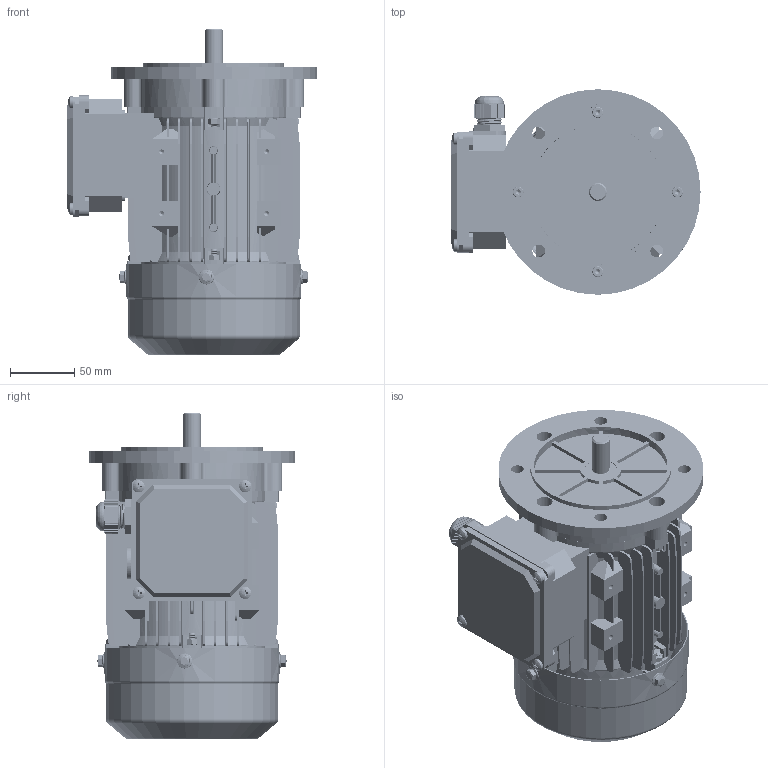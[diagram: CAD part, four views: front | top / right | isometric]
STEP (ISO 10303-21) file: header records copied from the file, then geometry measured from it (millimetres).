
FILE_DESCRIPTION (( 'STEP AP203' ), '1' );
FILE_NAME ('MS71L B5 3D蚾饜芞.STEP', '2024-06-01T08:46:48', ( 'User' ), ( 'China' ), 'SwSTEP 2.0', 'SolidWorks 2018', '' );
FILE_SCHEMA (( 'CONFIG_CONTROL_DESIGN' ));
Length unit declared in the file: millimetre
Products named in the file (17): hex nuts, style 1-grades ab gb_GB_FASTENER_NUT_SNAB1 M5-S; 8.200.07101MS71 L蛌粣; 8.306.07101MS71邧脯瑞欶; cross recessed pan head screws gb_GB_CROSS_SCREWS_TYPE1 M5X8-8  H type-C; hex flange bolts-heavy grade b gb_GB_FASTENER_BOLT_HFBB M5X10-C; 蹟杶郋M20X1.5; MS63-71諉盄碟裔; 蹟簸M20X1.5; MS63-71諉盄碟菁釱; 黑芛20X1.5; 8.014.07102MS71B5傷裔; 蚐猾25X14X4; MS71L  B5  3D蚾饜芞; hexagon socket head cap screws gb_GB_FASTENER_SCREWS_HSHCS M5X25-S; 8.034.07101MS71 L儂褲; spring lock washers--normal type gb_GB_FASTENER_WASHER_SW 5; 8.013.07102MS71綴傷裔
Assembly tree (42 placements, depth 2):
  MS71L  B5  3D蚾饜芞
    8.034.07101MS71 L儂褲
    8.013.07102MS71綴傷裔
    8.200.07101MS71 L蛌粣
    cross recessed pan head screws gb_GB_CROSS_SCREWS_TYPE1 M5X8-8  H type-C  x8
    蹟杶郋M20X1.5
    蹟簸M20X1.5
    黑芛20X1.5
    蚐猾25X14X4
    hexagon socket head cap screws gb_GB_FASTENER_SCREWS_HSHCS M5X25-S  x8
    spring lock washers--normal type gb_GB_FASTENER_WASHER_SW 5  x4
    hex nuts, style 1-grades ab gb_GB_FASTENER_NUT_SNAB1 M5-S  x7
    8.306.07101MS71邧脯瑞欶
    hex flange bolts-heavy grade b gb_GB_FASTENER_BOLT_HFBB M5X10-C  x4
    MS63-71諉盄碟裔
    MS63-71諉盄碟菁釱
    8.014.07102MS71B5傷裔
Bounding box: 194 x 160 x 253.83 mm (x, y, z)
Volume: 700297.8 mm3; surface area: 499428.6 mm2
Topology: 42 solids, 49 shells, 6183 faces, 14950 edges, 8926 vertices
Faces by surface type: plane 2188, cone 2072, cylinder 1655, bspline 170, torus 82, sphere 16
Entity records: 125362 total; most frequent: CARTESIAN_POINT 41427, ORIENTED_EDGE 17940, DIRECTION 15638, EDGE_CURVE 8970, VERTEX_POINT 5803, VECTOR 5304, LINE 5304, AXIS2_PLACEMENT_3D 5167
